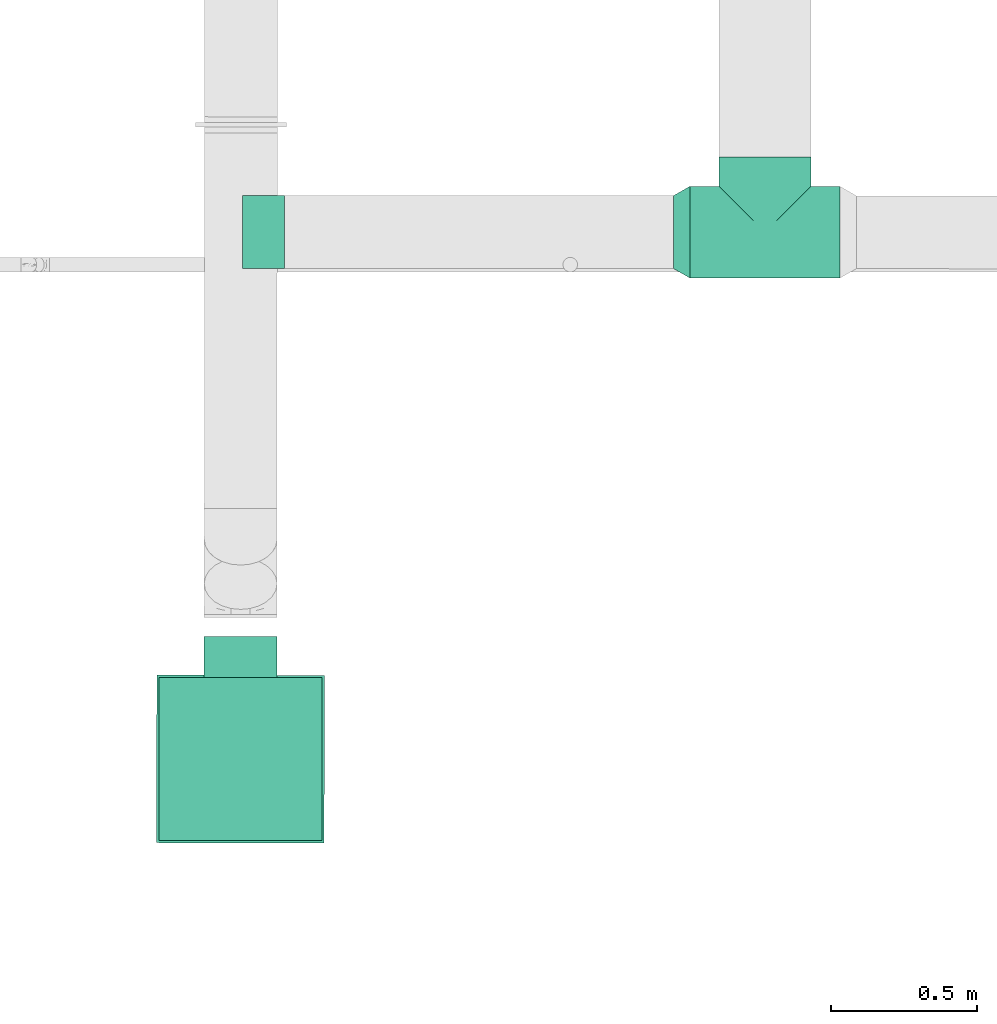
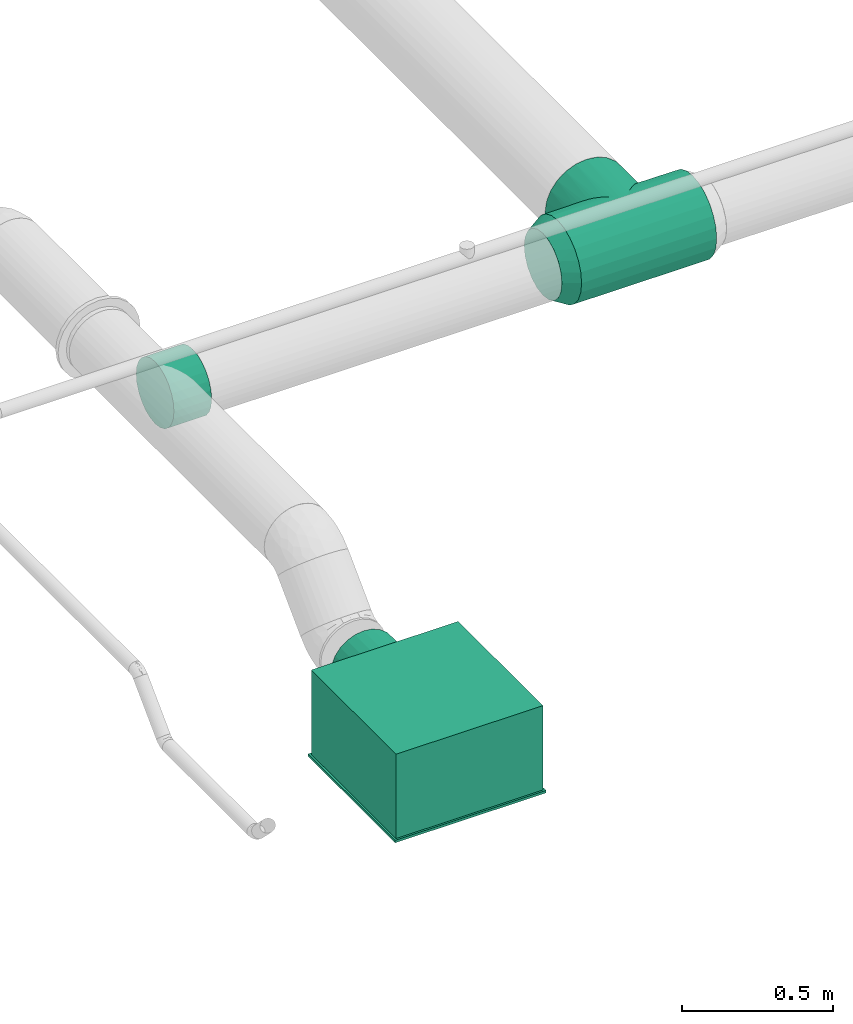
# One storey, part 19 of 63: 3 flow fittings, 1 flow terminal.
"""IFC2X3 building model written with IfcOpenShell, lengths in millimetres."""

from ifc_helpers import new_model, entity, si_unit, converted_unit, derived_unit, direction, frame, origin_with_axes, place, context, subcontext, project, spatial, open_shell, surface_model, source, transform, mapped, type_object, element, save


model = new_model("IFC2X3")

# Units and contexts
model_context = context("Model", 3, precision=0.01, world=frame((0.0, 4.29681676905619e-09, 0.0)), true_north=direction((4.01073788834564e-13, 1.0)))
plan_context = context("Plan", 3, precision=0.01, world=frame((0.0, 4.29681676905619e-09, 0.0)), true_north=direction((4.01073788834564e-13, 1.0)))
body_context = subcontext(model_context, "Body", "Model", "MODEL_VIEW")
ifc_project = project(units=[converted_unit("PLANEANGLEUNIT", "DEGREE", entity("IfcPositiveLengthMeasure", 0.0174532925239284), si_unit("PLANEANGLEUNIT", "RADIAN"), dimensions=[0, 0, 0, 0, 0, 0, 0]), si_unit("AREAUNIT", "SQUARE_METRE"), si_unit("LENGTHUNIT", "METRE", prefix="MILLI"), si_unit("MASSUNIT", "GRAM", prefix="KILO"), si_unit("POWERUNIT", "WATT"), si_unit("PRESSUREUNIT", "PASCAL"), si_unit("FORCEUNIT", "NEWTON", prefix="KILO"), si_unit("ELECTRICVOLTAGEUNIT", "VOLT"), si_unit("ELECTRICCURRENTUNIT", "AMPERE"), si_unit("THERMODYNAMICTEMPERATUREUNIT", "DEGREE_CELSIUS"), si_unit("TIMEUNIT", "SECOND"), si_unit("VOLUMEUNIT", "CUBIC_METRE"), derived_unit("LINEARVELOCITYUNIT", [(si_unit("LENGTHUNIT", "METRE"), 1), (si_unit("TIMEUNIT", "SECOND"), -1)]), derived_unit("VOLUMETRICFLOWRATEUNIT", [(si_unit("VOLUMEUNIT", "CUBIC_METRE"), 1), (si_unit("TIMEUNIT", "SECOND"), -1)]), derived_unit("THERMALTRANSMITTANCEUNIT", [(si_unit("POWERUNIT", "WATT"), 1), (si_unit("THERMODYNAMICTEMPERATUREUNIT", "KELVIN"), -1), (si_unit("AREAUNIT", "SQUARE_METRE"), -1)]), derived_unit("SOUNDPRESSUREUNIT", [(si_unit("PRESSUREUNIT", "PASCAL"), 1)])], contexts=[model_context, plan_context])

# Site, building, storey
site_placement = place(None, frame((0.0, -4.29681676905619e-09, 0.0), z_axis=(0.0, 0.0, 1.0), x_axis=(1.0, 0.0, 0.0)))
site = spatial("IfcSite", under=ifc_project, at=site_placement, CompositionType="ELEMENT")
building_placement = place(site_placement, frame((0.0, 4.29681676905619e-09, 0.0), z_axis=(0.0, 0.0, 1.0), x_axis=(1.0, 0.0, 0.0)))
building = spatial("IfcBuilding", under=site, at=building_placement, Name="mc-building", CompositionType="ELEMENT")
storey_placement = place(building_placement, frame((0.0, 0.0, 210900.0), z_axis=(0.0, 0.0, 1.0), x_axis=(1.0, 0.0, 0.0)))
storey = spatial("IfcBuildingStorey", under=building, at=storey_placement, Name="Nivå F", CompositionType="ELEMENT", Elevation=210900.0)

# Flow fittings
duct_fitting_type_1 = type_object("IfcDuctFittingType", Name="magicirc_tee_centric_90_001", PredefinedType="JUNCTION")
shared_shape_1 = source(origin_with_axes(), body_context, "Body", "SurfaceModel", [
    surface_model("IfcShellBasedSurfaceModel", [(-257.5, 40.764, -152.13332), (-257.5, 0.0, -157.5), (-257.5, 152.13332, -40.764), (-257.5, 78.75, -136.39901), (-257.5, 136.39901, -78.75), (-257.5, 111.36932, -111.36932), (-257.5, -157.5, 0.0), (-257.5, -78.75, -136.39901), (-257.5, -111.36932, -111.36932), (-257.5, -40.764, -152.13332), (-257.5, -152.13332, -40.764), (-257.5, -136.39901, -78.75), (-257.5, -111.36932, 111.36932), (-257.5, 136.39901, 78.75), (-257.5, 152.13332, 40.764), (-257.5, 157.5, 0.0), (-257.5, 40.764, 152.13332), (-257.5, 78.75, 136.39901), (-257.5, 111.36932, 111.36932), (-257.5, 0.0, 157.5), (-257.5, -152.13332, 40.764), (-257.5, -136.39901, 78.75), (-257.5, -78.75, 136.39901), (-257.5, -40.764, 152.13332), (257.5, 152.13332, -40.764), (257.5, 0.0, -157.5), (257.5, 40.764, -152.13332), (257.5, 78.75, -136.39901), (257.5, 111.36932, -111.36932), (257.5, 136.39901, -78.75), (257.5, -40.764, -152.13332), (257.5, -111.36932, -111.36932), (257.5, -78.75, -136.39901), (257.5, -152.13332, -40.764), (257.5, -136.39901, -78.75), (257.5, -157.5, 0.0), (257.5, 136.39901, 78.75), (257.5, 157.5, 0.0), (257.5, 152.13332, 40.764), (257.5, -111.36932, 111.36932), (257.5, 78.75, 136.39901), (257.5, 40.764, 152.13332), (257.5, 111.36932, 111.36932), (257.5, 0.0, 157.5), (257.5, -136.39901, 78.75), (257.5, -152.13332, 40.764), (257.5, -40.764, 152.13332), (257.5, -78.75, 136.39901), (156.38291, -156.38291, 18.72524), (157.5, -157.5, 0.0), (257.5, -154.81666, 20.382), (153.10726, -153.10726, 36.93798), (140.95819, -140.95819, 70.26406), (147.87507, -147.87507, 54.21453), (257.5, -144.26616, 59.757), (257.5, -123.88416, 95.05966), (132.64215, -132.64215, 84.92533), (123.18918, -123.18918, 98.13601), (112.82257, -112.82257, 109.89684), (90.04708, -90.04708, 129.21987), (101.72534, -101.72534, 120.24227), (257.5, -95.05966, 123.88416), (-147.87507, -147.87507, 54.21453), (-257.5, -144.26616, 59.757), (-153.10726, -153.10726, 36.93798), (-157.5, -157.5, 0.0), (-156.38291, -156.38291, 18.72524), (-257.5, -154.81666, 20.382), (-140.95819, -140.95819, 70.26406), (-123.18918, -123.18918, 98.13601), (-112.82257, -112.82257, 109.89684), (-90.04708, -90.04708, 129.21987), (-257.5, -95.05966, 123.88416), (-101.72534, -101.72534, 120.24227), (-257.5, -123.88416, 95.05966), (-132.64215, -132.64215, 84.92533), (-77.91101, -77.91101, 136.87996), (77.91101, -77.91101, 136.87996), (65.41408, -65.41408, 143.27333), (52.63766, -52.63766, 148.44368), (26.51413, -26.51413, 155.25222), (39.65101, -39.65101, 152.42718), (0.0, 0.0, 157.5), (13.28058, -13.28058, 156.93908), (-26.51413, -26.51413, 155.25222), (-39.65101, -39.65101, 152.42718), (-65.41408, -65.41408, 143.27333), (-52.63766, -52.63766, 148.44368), (-13.28058, -13.28058, 156.93908), (0.0, 0.0, -157.5), (65.41408, -65.41408, -143.27333), (77.91101, -77.91101, -136.87996), (52.63766, -52.63766, -148.44368), (90.04708, -90.04708, -129.21987), (257.5, -95.05966, -123.88416), (101.72534, -101.72534, -120.24227), (13.28058, -13.28058, -156.93908), (26.51413, -26.51413, -155.25222), (140.95819, -140.95819, -70.26406), (257.5, -144.26616, -59.757), (147.87507, -147.87507, -54.21453), (39.65101, -39.65101, -152.42718), (-132.64215, -132.64215, -84.92533), (-257.5, -123.88416, -95.05966), (-123.18918, -123.18918, -98.13601), (-13.28058, -13.28058, -156.93908), (-26.51413, -26.51413, -155.25222), (-101.72534, -101.72534, -120.24227), (-257.5, -95.05966, -123.88416), (-39.65101, -39.65101, -152.42718), (-52.63766, -52.63766, -148.44368), (123.18918, -123.18918, -98.13601), (257.5, -123.88416, -95.05966), (-147.87507, -147.87507, -54.21453), (-257.5, -144.26616, -59.757), (-65.41408, -65.41408, -143.27333), (153.10726, -153.10726, -36.93798), (257.5, -154.81666, -20.382), (156.38291, -156.38291, -18.72524), (-77.91101, -77.91101, -136.87996), (-156.38291, -156.38291, -18.72524), (-257.5, -154.81666, -20.382), (132.64215, -132.64215, -84.92533), (112.82257, -112.82257, -109.89684), (-112.82257, -112.82257, -109.89684), (-90.04708, -90.04708, -129.21987), (-140.95819, -140.95819, -70.26406), (-153.10726, -153.10726, -36.93798), (152.13332, -257.5, -40.764), (0.0, -257.5, -157.5), (40.764, -257.5, -152.13332), (78.75, -257.5, -136.39901), (111.36932, -257.5, -111.36932), (136.39901, -257.5, -78.75), (-157.5, -257.5, 0.0), (-40.764, -257.5, -152.13332), (-111.36932, -257.5, -111.36932), (-78.75, -257.5, -136.39901), (-152.13332, -257.5, -40.764), (-136.39901, -257.5, -78.75), (157.5, -257.5, 0.0), (152.13332, -257.5, 40.764), (136.39901, -257.5, 78.75), (-40.764, -257.5, 152.13332), (78.75, -257.5, 136.39901), (40.764, -257.5, 152.13332), (111.36932, -257.5, 111.36932), (0.0, -257.5, 157.5), (-136.39901, -257.5, 78.75), (-152.13332, -257.5, 40.764), (-111.36932, -257.5, 111.36932), (-78.75, -257.5, 136.39901)], [open_shell([[[0, 1, 2]], [[3, 0, 2]], [[2, 4, 5]], [[3, 2, 5]], [[6, 2, 1]], [[7, 8, 9]], [[10, 9, 8]], [[11, 10, 8]], [[6, 9, 10]], [[6, 1, 9]], [[6, 12, 2]], [[13, 14, 15]], [[12, 13, 2]], [[13, 16, 17]], [[18, 13, 17]], [[16, 13, 19]], [[20, 21, 6]], [[6, 21, 12]], [[22, 23, 12]], [[23, 13, 12]], [[13, 23, 19]], [[13, 15, 2]], [[24, 25, 26]], [[24, 26, 27]], [[28, 29, 24]], [[28, 24, 27]], [[25, 24, 30]], [[30, 31, 32]], [[31, 30, 33]], [[31, 33, 34]], [[33, 30, 35]], [[30, 24, 35]], [[24, 36, 35]], [[37, 38, 36]], [[36, 39, 35]], [[40, 41, 36]], [[40, 36, 42]], [[43, 36, 41]], [[35, 44, 45]], [[39, 44, 35]], [[39, 46, 47]], [[39, 36, 46]], [[43, 46, 36]], [[36, 24, 37]], [[48, 49, 35]], [[50, 45, 51]], [[48, 50, 51]], [[52, 53, 54]], [[51, 45, 53]], [[54, 44, 52]], [[44, 55, 56]], [[57, 55, 39]], [[44, 56, 52]], [[58, 57, 39]], [[59, 60, 61]], [[58, 39, 60]], [[61, 47, 59]], [[20, 62, 63]], [[64, 62, 20]], [[6, 65, 66]], [[66, 67, 6]], [[67, 64, 20]], [[68, 21, 63]], [[69, 70, 12]], [[71, 22, 72]], [[70, 73, 12]], [[69, 74, 75]], [[75, 21, 68]], [[75, 74, 21]], [[73, 72, 12]], [[22, 71, 76]], [[77, 47, 78]], [[78, 47, 46]], [[60, 39, 61]], [[79, 78, 46]], [[53, 45, 54]], [[80, 81, 46]], [[79, 46, 81]], [[46, 43, 80]], [[64, 67, 66]], [[42, 18, 40]], [[36, 13, 42]], [[38, 14, 36]], [[82, 83, 43]], [[43, 83, 80]], [[82, 43, 41]], [[40, 17, 41]], [[38, 37, 15]], [[69, 12, 74]], [[48, 35, 50]], [[56, 55, 57]], [[23, 84, 19]], [[85, 84, 23]], [[86, 23, 22]], [[87, 23, 86]], [[23, 87, 85]], [[86, 22, 76]], [[84, 88, 19]], [[68, 63, 62]], [[82, 19, 88]], [[19, 82, 16]], [[16, 82, 41]], [[17, 16, 41]], [[40, 18, 17]], [[42, 13, 18]], [[14, 13, 36]], [[38, 15, 14]], [[71, 72, 73]], [[77, 59, 47]], [[28, 27, 3]], [[27, 26, 0]], [[2, 37, 24]], [[2, 24, 29]], [[29, 28, 5]], [[89, 26, 25]], [[90, 32, 91]], [[32, 90, 30]], [[30, 90, 92]], [[93, 94, 95]], [[96, 25, 97]], [[98, 99, 100]], [[92, 101, 30]], [[97, 30, 101]], [[102, 103, 104]], [[97, 25, 30]], [[25, 96, 89]], [[37, 2, 15]], [[26, 89, 0]], [[29, 4, 2]], [[29, 5, 4]], [[28, 3, 5]], [[0, 3, 27]], [[89, 1, 0]], [[105, 106, 1]], [[107, 8, 108]], [[109, 110, 9]], [[111, 31, 112]], [[113, 10, 114]], [[106, 109, 9]], [[1, 106, 9]], [[9, 115, 7]], [[116, 117, 118]], [[110, 115, 9]], [[7, 115, 119]], [[120, 6, 121]], [[105, 1, 89]], [[95, 94, 31]], [[122, 112, 34]], [[111, 112, 122]], [[93, 32, 94]], [[111, 123, 31]], [[95, 31, 123]], [[100, 99, 33]], [[117, 35, 118]], [[49, 118, 35]], [[98, 34, 99]], [[116, 33, 117]], [[100, 33, 116]], [[34, 98, 122]], [[107, 124, 8]], [[107, 108, 125]], [[125, 108, 7]], [[8, 104, 103]], [[124, 104, 8]], [[103, 102, 11]], [[7, 119, 125]], [[113, 114, 126]], [[120, 121, 127]], [[113, 127, 10]], [[126, 114, 11]], [[10, 127, 121]], [[65, 6, 120]], [[126, 11, 102]], [[91, 32, 93]], [[128, 129, 130]], [[128, 130, 131]], [[132, 133, 128]], [[132, 128, 131]], [[129, 128, 134]], [[135, 136, 137]], [[136, 135, 138]], [[136, 138, 139]], [[138, 135, 134]], [[135, 129, 134]], [[128, 140, 134]], [[140, 141, 142]], [[143, 140, 142]], [[144, 145, 142]], [[144, 142, 146]], [[147, 142, 145]], [[134, 148, 149]], [[150, 148, 134]], [[150, 143, 151]], [[150, 140, 143]], [[147, 143, 142]], [[150, 134, 140]], [[134, 149, 66]], [[66, 65, 134]], [[64, 66, 149]], [[149, 62, 64]], [[150, 69, 148]], [[151, 73, 150]], [[62, 148, 68]], [[148, 62, 149]], [[75, 68, 148]], [[151, 143, 86]], [[69, 75, 148]], [[70, 69, 150]], [[71, 73, 151]], [[76, 71, 151]], [[70, 150, 73]], [[87, 86, 143]], [[85, 87, 143]], [[147, 88, 84]], [[147, 82, 88]], [[85, 143, 84]], [[76, 151, 86]], [[147, 84, 143]], [[146, 60, 144]], [[145, 80, 147]], [[145, 144, 78]], [[57, 146, 142]], [[48, 141, 140]], [[48, 140, 49]], [[51, 53, 141]], [[48, 51, 141]], [[141, 53, 142]], [[52, 142, 53]], [[78, 79, 145]], [[77, 78, 144]], [[80, 83, 147]], [[81, 80, 145]], [[79, 81, 145]], [[56, 57, 142]], [[52, 56, 142]], [[60, 59, 144]], [[58, 60, 146]], [[57, 58, 146]], [[77, 144, 59]], [[147, 83, 82]], [[140, 128, 118]], [[118, 49, 140]], [[116, 118, 128]], [[128, 100, 116]], [[132, 111, 133]], [[131, 95, 132]], [[100, 133, 98]], [[133, 100, 128]], [[122, 98, 133]], [[131, 130, 90]], [[111, 122, 133]], [[123, 111, 132]], [[93, 95, 131]], [[91, 93, 131]], [[123, 132, 95]], [[92, 90, 130]], [[101, 92, 130]], [[129, 96, 97]], [[129, 89, 96]], [[101, 130, 97]], [[91, 131, 90]], [[129, 97, 130]], [[136, 107, 137]], [[135, 106, 129]], [[135, 137, 115]], [[104, 136, 139]], [[120, 138, 134]], [[120, 134, 65]], [[127, 113, 138]], [[120, 127, 138]], [[138, 113, 139]], [[126, 139, 113]], [[115, 110, 135]], [[119, 115, 137]], [[106, 105, 129]], [[109, 106, 135]], [[110, 109, 135]], [[102, 104, 139]], [[126, 102, 139]], [[107, 125, 137]], [[124, 107, 136]], [[104, 124, 136]], [[119, 137, 125]], [[129, 105, 89]]])]),
])
flow_fitting_1_placement = place(storey_placement, frame((525100.70028, 452593.85517, 4200.0), z_axis=(0.0, 0.0, 1.0), x_axis=(-0.999999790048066, 0.000647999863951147, 0.0)))
element("IfcFlowFitting", 1, at=flow_fitting_1_placement, inside=storey, type_object=duct_fitting_type_1, Name="magicirc_tee_centric_90_001", context=body_context, shape_type="MappedRepresentation", body=[
    mapped(shared_shape_1, transform((0.0, 0.0, 0.0), scale=1.0)),
])
duct_fitting_type_2 = type_object("IfcDuctFittingType", Name="magicirc_reduction_001", PredefinedType="TRANSITION")
shared_shape_2 = source(origin_with_axes(), body_context, "Body", "SurfaceModel", [
    surface_model("IfcShellBasedSurfaceModel", [(0.0, 78.75, 136.39901), (0.0, 157.5, 0.0), (0.0, 40.764, 152.13332), (0.0, -78.75, 136.39901), (0.0, -152.13332, -40.764), (0.0, -111.36932, 111.36932), (0.0, -136.39901, 78.75), (0.0, -152.13332, 40.764), (0.0, -157.5, 0.0), (0.0, 152.13332, -40.764), (0.0, 136.39901, -78.75), (0.0, 0.0, -157.5), (0.0, 111.36932, -111.36932), (0.0, 78.75, -136.39901), (0.0, 40.764, -152.13332), (0.0, -136.39901, -78.75), (0.0, -78.75, -136.39901), (0.0, -111.36932, -111.36932), (0.0, -40.764, -152.13332), (0.0, 0.0, 157.5), (56.29165, 38.62713, 118.88206), (56.29165, -38.62713, 118.88206), (56.29165, -73.47315, 101.12712), (56.29165, -101.12712, 73.47315), (56.29165, -118.88206, 38.62713), (56.29165, -125.0, 0.0), (56.29165, 0.0, 125.0), (56.29165, 118.88206, -38.62713), (56.29165, 73.47315, 101.12712), (56.29165, 101.12712, 73.47315), (56.29165, 118.88206, 38.62713), (56.29165, -118.88206, -38.62713), (56.29165, -101.12712, -73.47315), (56.29165, 0.0, -125.0), (56.29165, -73.47315, -101.12712), (56.29165, -38.62713, -118.88206), (56.29165, 125.0, 0.0), (56.29165, 73.47315, -101.12712), (56.29165, 101.12712, -73.47315), (56.29165, 38.62713, -118.88206), (0.0, 136.39901, 78.75), (0.0, 111.36932, 111.36932), (0.0, -40.764, 152.13332), (0.0, 152.13332, 40.764)], [open_shell([[[0, 1, 2]], [[3, 4, 5]], [[6, 5, 4]], [[6, 4, 7]], [[7, 4, 8]], [[1, 9, 10]], [[11, 12, 13]], [[14, 11, 13]], [[15, 16, 17]], [[16, 11, 18]], [[1, 4, 19]], [[20, 21, 22]], [[23, 24, 25]], [[23, 25, 22]], [[20, 22, 25]], [[26, 21, 20]], [[20, 27, 28]], [[28, 27, 29]], [[27, 30, 29]], [[25, 27, 20]], [[31, 32, 33]], [[34, 35, 33]], [[34, 33, 32]], [[33, 27, 25]], [[30, 27, 36]], [[33, 37, 38]], [[38, 27, 33]], [[37, 33, 39]], [[25, 31, 33]], [[1, 19, 2]], [[40, 1, 41]], [[41, 1, 0]], [[5, 19, 4]], [[19, 5, 3]], [[3, 42, 19]], [[5, 4, 6]], [[8, 7, 4]], [[1, 40, 43]], [[1, 10, 14]], [[13, 14, 10]], [[13, 10, 12]], [[1, 14, 4]], [[14, 17, 15]], [[15, 4, 14]], [[14, 16, 17]], [[18, 16, 14]], [[11, 18, 14]], [[35, 34, 16]], [[33, 35, 18]], [[18, 11, 33]], [[16, 18, 35]], [[34, 17, 16]], [[31, 25, 4]], [[32, 31, 15]], [[15, 17, 32]], [[4, 15, 31]], [[25, 8, 4]], [[32, 17, 34]], [[27, 38, 10]], [[36, 27, 9]], [[9, 1, 36]], [[10, 9, 27]], [[38, 12, 10]], [[39, 33, 14]], [[37, 39, 13]], [[13, 12, 37]], [[14, 13, 39]], [[33, 11, 14]], [[37, 12, 38]], [[20, 28, 0]], [[26, 20, 2]], [[2, 19, 26]], [[0, 2, 20]], [[28, 41, 0]], [[30, 36, 43]], [[29, 30, 40]], [[40, 41, 29]], [[43, 40, 30]], [[36, 1, 43]], [[29, 41, 28]], [[24, 23, 6]], [[25, 24, 7]], [[7, 8, 25]], [[6, 7, 24]], [[23, 5, 6]], [[21, 26, 42]], [[22, 21, 3]], [[3, 5, 22]], [[42, 3, 21]], [[26, 19, 42]], [[22, 5, 23]], [[42, 19, 2]], [[0, 42, 2]], [[0, 41, 1]], [[0, 1, 42]], [[42, 4, 3]], [[11, 1, 9]], [[10, 11, 9]], [[12, 11, 10]], [[11, 15, 4]], [[11, 16, 15]], [[4, 1, 11]], [[1, 4, 42]], [[21, 22, 25]], [[21, 25, 26]], [[20, 26, 28]], [[26, 29, 28]], [[30, 29, 27]], [[27, 29, 26]], [[26, 25, 35]], [[31, 32, 34]], [[35, 27, 26]], [[35, 31, 34]], [[39, 35, 33]], [[35, 38, 27]], [[35, 37, 38]], [[39, 37, 35]], [[25, 31, 35]], [[25, 7, 8]], [[7, 24, 6]], [[19, 42, 26]], [[3, 21, 42]], [[26, 2, 19]], [[2, 20, 0]], [[1, 43, 36]], [[40, 30, 43]], [[36, 9, 1]], [[9, 27, 10]], [[11, 14, 33]], [[13, 39, 14]], [[33, 18, 11]], [[18, 35, 16]], [[8, 4, 25]], [[15, 31, 4]], [[26, 21, 22]], [[26, 23, 20]], [[23, 26, 22]], [[23, 27, 29]], [[28, 20, 29]], [[29, 36, 30]], [[29, 20, 23]], [[29, 27, 36]], [[23, 31, 27]], [[32, 34, 35]], [[27, 31, 32]], [[33, 32, 35]], [[38, 27, 37]], [[33, 37, 27]], [[27, 32, 33]], [[31, 23, 25]], [[41, 19, 2]], [[41, 2, 0]], [[19, 40, 4]], [[40, 19, 41]], [[7, 19, 4]], [[42, 5, 3]], [[42, 19, 5]], [[5, 7, 6]], [[19, 7, 5]], [[43, 10, 40]], [[9, 10, 43]], [[40, 10, 4]], [[4, 10, 13]], [[18, 13, 14]], [[4, 17, 15]], [[17, 4, 16]], [[13, 18, 16]], [[16, 4, 13]], [[43, 1, 9]], [[13, 37, 39]], [[38, 37, 12]], [[33, 14, 39]], [[27, 10, 9]], [[37, 13, 12]], [[11, 33, 18]], [[18, 33, 35]], [[34, 16, 35]], [[15, 32, 31]], [[17, 34, 32]], [[4, 31, 25]], [[17, 32, 15]], [[31, 4, 15]], [[3, 22, 21]], [[23, 22, 5]], [[26, 42, 21]], [[24, 6, 7]], [[22, 3, 5]], [[19, 26, 2]], [[2, 26, 20]], [[28, 0, 20]], [[40, 29, 30]], [[41, 28, 29]], [[43, 30, 36]], [[41, 29, 40]], [[30, 43, 40]]])]),
])
flow_fitting_2_placement = place(storey_placement, frame((524843.20033, 452594.02196, 4200.0), z_axis=(0.0, 0.0, 1.0), x_axis=(-0.999999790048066, 0.000647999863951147, 0.0)))
element("IfcFlowFitting", 2, at=flow_fitting_2_placement, inside=storey, type_object=duct_fitting_type_2, Name="magicirc_reduction_001", context=body_context, shape_type="MappedRepresentation", body=[
    mapped(shared_shape_2, transform((0.0, 0.0, 0.0), scale=1.0)),
])
duct_fitting_type_3 = type_object("IfcDuctFittingType", Name="magicirc_tapoutlet_001", PredefinedType="CONNECTOR")
shared_shape_3 = source(origin_with_axes(), body_context, "Body", "SurfaceModel", [
    surface_model("IfcShellBasedSurfaceModel", [(-118.904, 88.38835, -88.38835), (-118.904, 120.74073, 32.35238), (-118.904, 108.25318, -62.5), (-118.904, -88.38835, -88.38835), (-118.904, -125.0, 0.0), (-118.904, -62.5, -108.25318), (-118.904, -120.74073, -32.35238), (-118.904, -108.25318, -62.5), (0.0, 125.0, 0.0), (0.0, 120.74073, -32.35238), (-118.904, 125.0, 0.0), (0.0, -120.74073, -32.35238), (0.0, -125.0, 0.0), (-118.904, -32.35238, -120.74073), (-118.904, 0.0, -125.0), (-118.904, 62.5, -108.25318), (-118.904, 32.35238, -120.74073), (-118.904, 120.74073, -32.35238), (-118.904, -120.74073, 32.35238), (-118.904, -108.25318, 62.5), (-118.904, -62.5, 108.25318), (-118.904, -32.35238, 120.74073), (-118.904, -88.38835, 88.38835), (-118.904, 62.5, 108.25318), (-118.904, 108.25318, 62.5), (-118.904, 88.38835, 88.38835), (-118.904, 32.35238, 120.74073), (-118.904, 0.0, 125.0), (0.0, -32.35238, 120.74073), (0.0, 0.0, 125.0), (0.0, -62.5, 108.25318), (0.0, -88.38835, 88.38835), (0.0, -120.74073, 32.35238), (0.0, -108.25318, 62.5), (0.0, -108.25318, -62.5), (0.0, -88.38835, -88.38835), (0.0, -32.35238, -120.74073), (0.0, -62.5, -108.25318), (0.0, 0.0, -125.0), (0.0, 32.35238, -120.74073), (0.0, 62.5, -108.25318), (0.0, 88.38835, -88.38835), (0.0, 108.25318, -62.5), (0.0, 120.74073, 32.35238), (0.0, 108.25318, 62.5), (0.0, 88.38835, 88.38835), (0.0, 32.35238, 120.74073), (0.0, 62.5, 108.25318), (25.0, -88.38835, -88.38835), (25.0, -120.74073, 32.35238), (25.0, -108.25318, -62.5), (25.0, 32.35238, -120.74073), (25.0, 0.0, -125.0), (25.0, 62.5, -108.25318), (25.0, -32.35238, -120.74073), (25.0, -62.5, -108.25318), (25.0, -125.0, 0.0), (25.0, -120.74073, -32.35238), (25.0, 88.38835, -88.38835), (25.0, 108.25318, -62.5), (25.0, 125.0, 0.0), (25.0, 120.74073, 32.35238), (25.0, 120.74073, -32.35238), (25.0, -108.25318, 62.5), (25.0, -62.5, 108.25318), (25.0, -32.35238, 120.74073), (25.0, -88.38835, 88.38835), (25.0, 0.0, 125.0), (25.0, 108.25318, 62.5), (25.0, 88.38835, 88.38835), (25.0, 32.35238, 120.74073), (25.0, 62.5, 108.25318)], [open_shell([[[0, 1, 2]], [[3, 4, 5]], [[6, 4, 7]], [[3, 7, 4]], [[8, 9, 10]], [[4, 11, 12]], [[13, 4, 14]], [[5, 4, 13]], [[0, 14, 1]], [[14, 15, 16]], [[14, 0, 15]], [[2, 1, 17]], [[2, 0, 1]], [[1, 10, 17]], [[4, 7, 6]], [[18, 19, 14]], [[14, 19, 20]], [[21, 14, 20]], [[20, 19, 22]], [[14, 21, 23]], [[14, 24, 1]], [[25, 24, 14]], [[25, 14, 23]], [[21, 26, 23]], [[21, 27, 26]], [[4, 18, 14]], [[28, 29, 21]], [[30, 28, 20]], [[21, 29, 27]], [[20, 28, 21]], [[20, 22, 30]], [[22, 31, 30]], [[32, 33, 18]], [[12, 32, 4]], [[22, 19, 31]], [[19, 33, 31]], [[18, 33, 19]], [[18, 4, 32]], [[7, 34, 11]], [[6, 11, 4]], [[34, 7, 3]], [[6, 7, 11]], [[3, 35, 34]], [[36, 37, 13]], [[38, 36, 14]], [[3, 5, 35]], [[5, 37, 35]], [[13, 37, 5]], [[13, 14, 36]], [[39, 38, 16]], [[40, 39, 15]], [[16, 38, 14]], [[15, 39, 16]], [[15, 0, 40]], [[0, 41, 40]], [[9, 42, 17]], [[0, 2, 41]], [[2, 42, 41]], [[17, 42, 2]], [[17, 10, 9]], [[43, 8, 1]], [[44, 43, 24]], [[1, 8, 10]], [[24, 43, 1]], [[24, 25, 44]], [[25, 45, 44]], [[46, 47, 26]], [[29, 46, 27]], [[25, 23, 45]], [[23, 47, 45]], [[26, 47, 23]], [[26, 27, 46]], [[7, 4, 3]], [[15, 16, 14]], [[19, 14, 18]], [[19, 22, 14]], [[14, 22, 20]], [[14, 23, 25]], [[27, 26, 21]], [[14, 4, 18]], [[48, 49, 50]], [[51, 52, 38]], [[53, 51, 39]], [[53, 39, 40]], [[38, 52, 54]], [[36, 54, 55]], [[37, 36, 55]], [[56, 57, 49]], [[58, 59, 60]], [[58, 60, 53]], [[52, 51, 54]], [[54, 49, 55]], [[55, 49, 48]], [[54, 60, 61]], [[54, 51, 53]], [[62, 60, 59]], [[53, 60, 54]], [[57, 50, 49]], [[63, 49, 54]], [[64, 63, 54]], [[64, 54, 65]], [[66, 63, 64]], [[67, 65, 54]], [[61, 68, 54]], [[68, 69, 54]], [[70, 67, 71]], [[69, 71, 67]], [[54, 69, 67]], [[65, 67, 29]], [[64, 65, 28]], [[28, 65, 29]], [[31, 66, 30]], [[64, 28, 30]], [[64, 30, 66]], [[49, 63, 33]], [[56, 49, 32]], [[33, 63, 31]], [[49, 33, 32]], [[56, 32, 12]], [[66, 31, 63]], [[57, 56, 12]], [[50, 57, 11]], [[11, 57, 12]], [[35, 48, 34]], [[50, 11, 34]], [[50, 34, 48]], [[37, 55, 35]], [[54, 36, 38]], [[48, 35, 55]], [[39, 51, 38]], [[41, 58, 40]], [[53, 40, 58]], [[62, 59, 42]], [[60, 62, 9]], [[42, 59, 41]], [[62, 42, 9]], [[60, 9, 8]], [[58, 41, 59]], [[61, 60, 8]], [[68, 61, 43]], [[43, 61, 8]], [[45, 69, 44]], [[68, 43, 44]], [[68, 44, 69]], [[70, 71, 47]], [[67, 70, 46]], [[47, 71, 45]], [[70, 47, 46]], [[67, 46, 29]], [[69, 45, 71]], [[66, 63, 54]], [[54, 65, 64]], [[64, 66, 54]], [[54, 69, 71]], [[67, 54, 71]]])]),
])
flow_fitting_3_placement = place(storey_placement, frame((523427.10756, 452594.93923, 4200.0), z_axis=(0.0, 0.0, -1.0), x_axis=(0.999999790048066, -0.000647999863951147, 0.0)))
element("IfcFlowFitting", 3, at=flow_fitting_3_placement, inside=storey, type_object=duct_fitting_type_3, Name="magicirc_tapoutlet_001", context=body_context, shape_type="MappedRepresentation", body=[
    mapped(shared_shape_3, transform((0.0, 0.0, 0.0), scale=1.0)),
])

# Flow terminal
air_terminal_type = type_object("IfcAirTerminalType", Name="NS19-H-S-2-250 - 4-way", PredefinedType="NOTDEFINED")
shared_shape_4 = source(origin_with_axes(), body_context, "Body", "SurfaceModel", [
    surface_model("IfcShellBasedSurfaceModel", [(-287.5, 287.5, 0.0), (-287.5, -287.5, 0.0), (287.5, -287.5, 0.0), (287.5, 287.5, 0.0), (287.5, 287.5, -10.0), (287.5, -287.5, -10.0), (-287.5, -287.5, -10.0), (-287.5, 287.5, -10.0), (-280.0, 280.0, 340.0), (-280.0, -280.0, 340.0), (280.0, -280.0, 340.0), (280.0, 280.0, 340.0), (280.0, 280.0, 0.0), (280.0, -280.0, 0.0), (-280.0, -280.0, 0.0), (-280.0, 280.0, 0.0), (-280.0, 62.5, 81.74683), (-280.0, 88.38835, 101.61165), (-280.0, 62.4, 81.92003), (-280.0, 32.30062, 69.45246), (-280.0, 0.0, 65.2), (-280.0, 32.35238, 69.25927), (-280.0, 0.0, 65.0), (-280.0, 88.24693, 101.75307), (-280.0, 120.74073, 157.64763), (-280.0, 124.8, 189.99999), (-280.0, 120.54755, 157.69939), (-280.0, 125.0, 189.99999), (-280.0, 108.25318, 127.5), (-280.0, 108.07997, 127.6), (-280.0, -32.30062, 69.45246), (-280.0, -32.35238, 69.25927), (-280.0, -62.4, 81.92003), (-280.0, -88.38835, 101.61165), (-280.0, -62.5, 81.74683), (-280.0, -88.24693, 101.75307), (-280.0, -108.07997, 127.6), (-280.0, -108.25318, 127.5), (-280.0, -120.54755, 157.69939), (-280.0, -120.74073, 157.64763), (-280.0, -124.8, 189.99999), (-280.0, -125.0, 189.99999), (-280.0, 120.74073, 222.35238), (-280.0, 120.54755, 222.30062), (-280.0, 108.07997, 252.4), (-280.0, 108.25318, 252.49999), (-280.0, 88.24693, 278.24693), (-280.0, 88.38835, 278.38835), (-280.0, 62.5, 298.25318), (-280.0, 62.4, 298.07997), (-280.0, 32.30062, 310.54754), (-280.0, 32.35238, 310.74073), (-280.0, 0.0, 314.80001), (-280.0, 0.0, 315.0), (-280.0, -108.25318, 252.49999), (-280.0, -108.07997, 252.4), (-280.0, -88.38835, 278.38835), (-280.0, -88.24693, 278.24693), (-280.0, -120.74073, 222.35238), (-280.0, -120.54755, 222.30062), (-280.0, -32.30062, 310.54754), (-280.0, -32.35238, 310.74073), (-280.0, -62.4, 298.07997), (-280.0, -62.5, 298.25318), (-420.00002, 62.5, 298.25318), (-420.00002, 88.38835, 278.38835), (-420.00002, 62.4, 298.07997), (-420.00002, 32.30062, 310.54754), (-420.00002, 0.0, 314.80001), (-420.00002, 32.35238, 310.74073), (-420.00002, 0.0, 315.0), (-420.00002, 88.24693, 278.24693), (-420.00002, 120.74073, 222.35238), (-420.00002, 124.8, 189.99999), (-420.00002, 120.54755, 222.30062), (-420.00002, 125.0, 189.99999), (-420.00002, 108.25318, 252.49999), (-420.00002, 108.07997, 252.4), (-420.00002, -32.30062, 310.54754), (-420.00002, -32.35238, 310.74073), (-420.00002, -62.4, 298.07997), (-420.00002, -88.38835, 278.38835), (-420.00002, -62.5, 298.25318), (-420.00002, -88.24693, 278.24693), (-420.00002, -108.07997, 252.4), (-420.00002, -108.25318, 252.49999), (-420.00002, -120.54755, 222.30062), (-420.00002, -120.74073, 222.35238), (-420.00002, -124.8, 189.99999), (-420.00002, -125.0, 189.99999), (-420.00002, 120.74073, 157.64763), (-420.00002, 120.54755, 157.69939), (-420.00002, 108.07997, 127.6), (-420.00002, 108.25318, 127.5), (-420.00002, 88.24693, 101.75307), (-420.00002, 88.38835, 101.61165), (-420.00002, 62.5, 81.74683), (-420.00002, 62.4, 81.92003), (-420.00002, 32.30062, 69.45246), (-420.00002, 32.35238, 69.25927), (-420.00002, 0.0, 65.2), (-420.00002, 0.0, 65.0), (-420.00002, -108.25318, 127.5), (-420.00002, -108.07997, 127.6), (-420.00002, -88.38835, 101.61165), (-420.00002, -88.24693, 101.75307), (-420.00002, -120.74073, 157.64763), (-420.00002, -120.54755, 157.69939), (-420.00002, -32.30062, 69.45246), (-420.00002, -32.35238, 69.25927), (-420.00002, -62.4, 81.92003), (-420.00002, -62.5, 81.74683)], [open_shell([[[0, 1, 2]], [[2, 3, 0]], [[4, 5, 6]], [[6, 7, 4]], [[2, 1, 6]], [[6, 5, 2]], [[3, 2, 5]], [[5, 4, 3]], [[0, 3, 4]], [[4, 7, 0]], [[1, 0, 7]], [[7, 6, 1]], [[8, 9, 10]], [[10, 11, 8]], [[12, 13, 14]], [[14, 15, 12]], [[10, 9, 14]], [[14, 13, 10]], [[11, 10, 13]], [[13, 12, 11]], [[8, 11, 12]], [[12, 15, 8]], [[9, 8, 15]], [[15, 14, 9]], [[16, 17, 18]], [[16, 18, 19]], [[20, 21, 19]], [[21, 20, 22]], [[19, 21, 16]], [[18, 17, 23]], [[24, 25, 26]], [[25, 24, 27]], [[24, 26, 28]], [[23, 28, 29]], [[28, 23, 17]], [[29, 28, 26]], [[22, 30, 31]], [[31, 30, 32]], [[33, 34, 35]], [[32, 34, 31]], [[32, 35, 34]], [[22, 20, 30]], [[36, 37, 33]], [[37, 36, 38]], [[36, 33, 35]], [[39, 38, 40]], [[38, 39, 37]], [[39, 40, 41]], [[27, 42, 43]], [[43, 42, 44]], [[44, 45, 46]], [[45, 44, 42]], [[46, 45, 47]], [[47, 48, 49]], [[49, 48, 50]], [[50, 51, 52]], [[51, 50, 48]], [[52, 51, 53]], [[49, 46, 47]], [[54, 55, 56]], [[56, 55, 57]], [[55, 54, 58]], [[41, 59, 58]], [[58, 59, 55]], [[41, 40, 59]], [[60, 53, 61]], [[60, 61, 62]], [[57, 63, 56]], [[57, 62, 63]], [[63, 62, 61]], [[52, 53, 60]], [[43, 25, 27]], [[64, 65, 66]], [[64, 66, 67]], [[68, 69, 67]], [[69, 68, 70]], [[67, 69, 64]], [[66, 65, 71]], [[72, 73, 74]], [[73, 72, 75]], [[72, 74, 76]], [[71, 76, 77]], [[76, 71, 65]], [[77, 76, 74]], [[70, 78, 79]], [[79, 78, 80]], [[81, 82, 83]], [[80, 82, 79]], [[80, 83, 82]], [[70, 68, 78]], [[84, 85, 81]], [[85, 84, 86]], [[84, 81, 83]], [[87, 86, 88]], [[86, 87, 85]], [[87, 88, 89]], [[75, 90, 91]], [[91, 90, 92]], [[92, 93, 94]], [[93, 92, 90]], [[94, 93, 95]], [[95, 96, 97]], [[97, 96, 98]], [[98, 99, 100]], [[99, 98, 96]], [[100, 99, 101]], [[97, 94, 95]], [[102, 103, 104]], [[104, 103, 105]], [[103, 102, 106]], [[89, 107, 106]], [[106, 107, 103]], [[89, 88, 107]], [[108, 101, 109]], [[108, 109, 110]], [[105, 111, 104]], [[105, 110, 111]], [[111, 110, 109]], [[100, 101, 108]], [[91, 73, 75]], [[39, 106, 102]], [[104, 37, 102]], [[34, 111, 109]], [[104, 111, 33]], [[31, 109, 101]], [[106, 41, 89]], [[106, 39, 41]], [[102, 37, 39]], [[104, 33, 37]], [[34, 33, 111]], [[109, 31, 34]], [[101, 22, 31]], [[21, 99, 96]], [[95, 16, 96]], [[28, 93, 90]], [[95, 93, 17]], [[24, 90, 75]], [[99, 21, 22]], [[96, 16, 21]], [[95, 17, 16]], [[93, 28, 17]], [[24, 28, 90]], [[75, 27, 24]], [[99, 22, 101]], [[42, 75, 72]], [[45, 72, 76]], [[48, 64, 69]], [[51, 69, 70]], [[72, 45, 42]], [[42, 27, 75]], [[65, 47, 45]], [[47, 65, 48]], [[48, 65, 64]], [[69, 51, 48]], [[65, 45, 76]], [[70, 53, 51]], [[61, 79, 82]], [[81, 63, 82]], [[54, 85, 87]], [[81, 85, 56]], [[58, 87, 89]], [[79, 61, 53]], [[82, 63, 61]], [[81, 56, 63]], [[85, 54, 56]], [[58, 54, 87]], [[89, 41, 58]], [[79, 53, 70]], [[103, 107, 38]], [[103, 36, 105]], [[108, 110, 32]], [[35, 110, 105]], [[100, 108, 30]], [[88, 40, 107]], [[40, 38, 107]], [[38, 36, 103]], [[36, 35, 105]], [[110, 35, 32]], [[32, 30, 108]], [[30, 20, 100]], [[97, 98, 19]], [[97, 18, 94]], [[91, 92, 29]], [[23, 92, 94]], [[73, 91, 26]], [[20, 19, 98]], [[19, 18, 97]], [[18, 23, 94]], [[23, 29, 92]], [[91, 29, 26]], [[26, 25, 73]], [[100, 20, 98]], [[74, 73, 43]], [[77, 74, 44]], [[67, 66, 49]], [[68, 67, 50]], [[43, 44, 74]], [[73, 25, 43]], [[44, 46, 71]], [[49, 71, 46]], [[66, 71, 49]], [[49, 50, 67]], [[77, 44, 71]], [[50, 52, 68]], [[80, 78, 60]], [[80, 62, 83]], [[86, 84, 55]], [[57, 84, 83]], [[88, 86, 59]], [[52, 60, 78]], [[60, 62, 80]], [[62, 57, 83]], [[57, 55, 84]], [[86, 55, 59]], [[59, 40, 88]], [[68, 52, 78]]])]),
])
flow_terminal_placement = place(storey_placement, frame((523300.93575, 450785.92525, 3770.0), z_axis=(0.0, 0.0, 1.0), x_axis=(-0.000647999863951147, -0.999999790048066, 0.0)))
element("IfcFlowTerminal", 4, at=flow_terminal_placement, inside=storey, type_object=air_terminal_type, Name="NS19-H-S-2-250 - 4-way", context=body_context, shape_type="MappedRepresentation", body=[
    mapped(shared_shape_4, transform((0.0, 0.0, 0.0), scale=1.0)),
])

save(model, "model.ifc")
